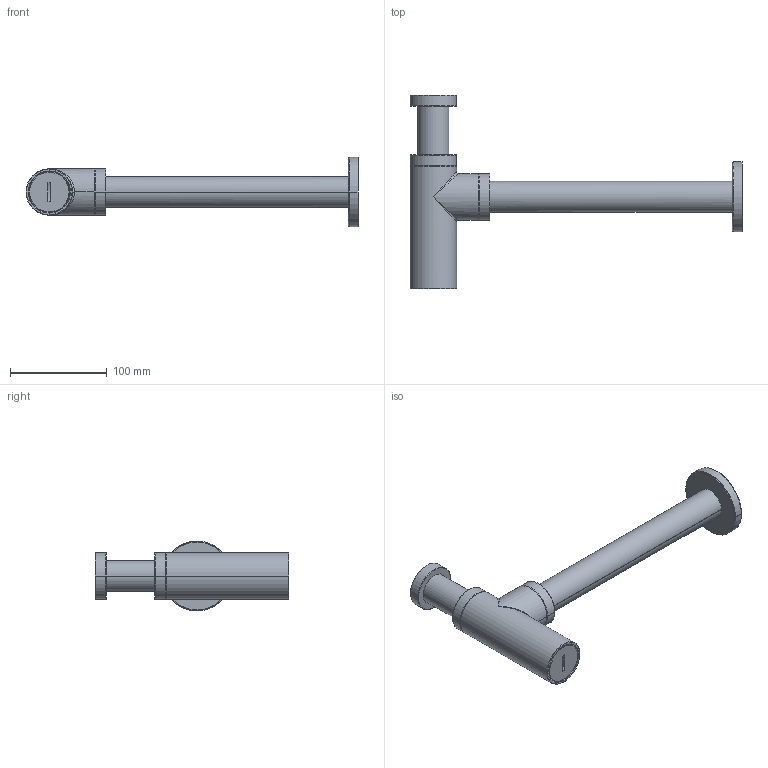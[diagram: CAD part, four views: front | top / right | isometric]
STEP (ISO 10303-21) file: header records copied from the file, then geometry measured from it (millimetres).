
FILE_DESCRIPTION((''),'2;1');
FILE_NAME('92672_SW0001','2024-03-05T09:16:17',('carloff'),(''),'CREO PARAMETRIC BY PTC INC, 2022014','CREO PARAMETRIC BY PTC INC, 2022014','');
FILE_SCHEMA(('CONFIG_CONTROL_DESIGN'));
Length unit declared in the file: millimetre
Products named in the file (1): 92672_SW0001
Bounding box: 342.5 x 200 x 72 mm (x, y, z)
Volume: 127098 mm3; surface area: 175312.7 mm2
Topology: 2 solids, 2 shells, 239 faces, 500 edges, 290 vertices
Faces by surface type: cylinder 87, torus 62, plane 44, bspline 24, cone 22
Entity records: 7666 total; most frequent: CARTESIAN_POINT 2413, DIRECTION 1234, ORIENTED_EDGE 1000, AXIS2_PLACEMENT_3D 551, EDGE_CURVE 500, CIRCLE 336, VERTEX_POINT 290, EDGE_LOOP 272
